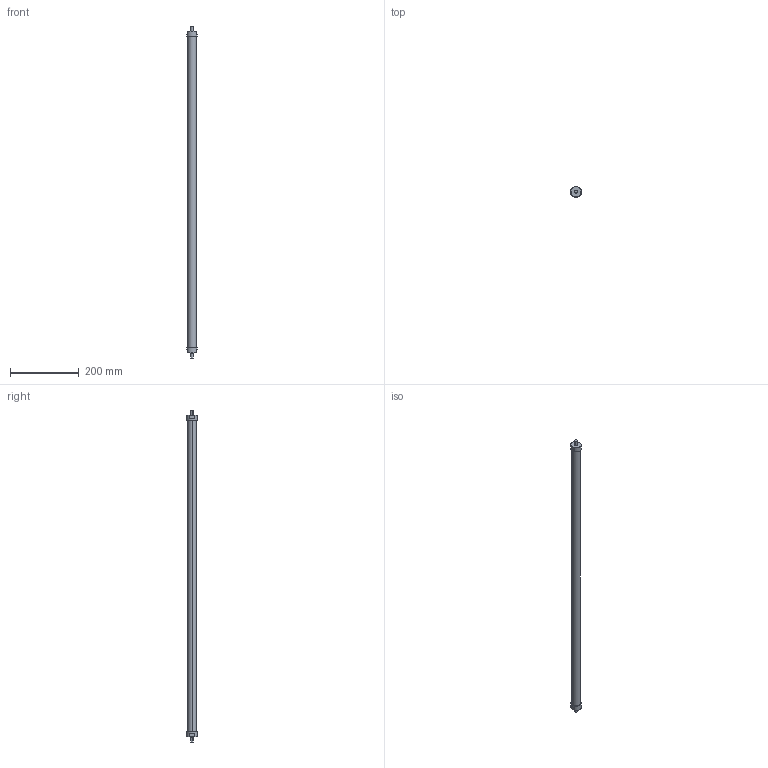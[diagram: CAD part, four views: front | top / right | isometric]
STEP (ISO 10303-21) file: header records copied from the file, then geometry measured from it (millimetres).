
FILE_DESCRIPTION(('STEP AP214'),'1');
FILE_NAME('ETT-R050N944.stp','2015-07-20T08:02:50',(' '),(' '),'Spatial InterOp 3D',' ',' ');
FILE_SCHEMA(('automotive_design'));
Length unit declared in the file: metre
Products named in the file (3): 1; 3; 2
Bounding box: 31 x 31 x 964 mm (x, y, z)
Volume: 466756 mm3; surface area: 77227.3 mm2
Topology: 1 solids, 7 shells, 30 faces, 78 edges, 60 vertices
Faces by surface type: plane 16, cylinder 14
Entity records: 1265 total; most frequent: DIRECTION 188, CARTESIAN_POINT 171, ORIENTED_EDGE 132, EDGE_CURVE 78, AXIS2_PLACEMENT_3D 77, VERTEX_POINT 60, CIRCLE 44, EDGE_LOOP 36
